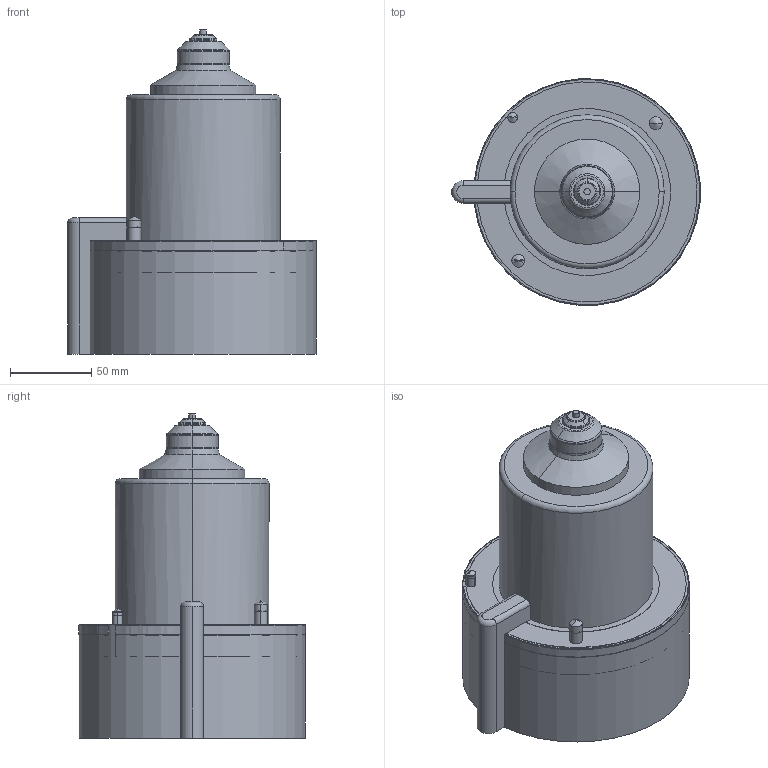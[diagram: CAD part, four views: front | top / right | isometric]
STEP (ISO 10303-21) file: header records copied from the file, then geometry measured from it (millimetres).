
FILE_DESCRIPTION (( 'STEP AP214' ), '1' );
FILE_NAME ('SB24B_OPEN_A150.STEP', '2009-07-28T15:34:34', ( 'Synventive Molding Solutions' ), ( 'Synventive Molding Solutions' ), 'SwSTEP 2.0', 'SolidWorks 2008', '' );
FILE_SCHEMA (( 'AUTOMOTIVE_DESIGN' ));
Length unit declared in the file: millimetre
Products named in the file (1): SB24B_OPEN_A150
Bounding box: 153.29 x 139.67 x 200 mm (x, y, z)
Volume: 2571239.3 mm3; surface area: 228288.3 mm2
Topology: 6 solids, 11 shells, 487 faces, 1155 edges, 711 vertices
Faces by surface type: cylinder 183, plane 158, cone 72, torus 68, sphere 4, bspline 2
Entity records: 20485 total; most frequent: CARTESIAN_POINT 3619, DIRECTION 2559, ORIENTED_EDGE 2278, EDGE_CURVE 1139, AXIS2_PLACEMENT_3D 1033, VERTEX_POINT 711, CIRCLE 547, EDGE_LOOP 542
